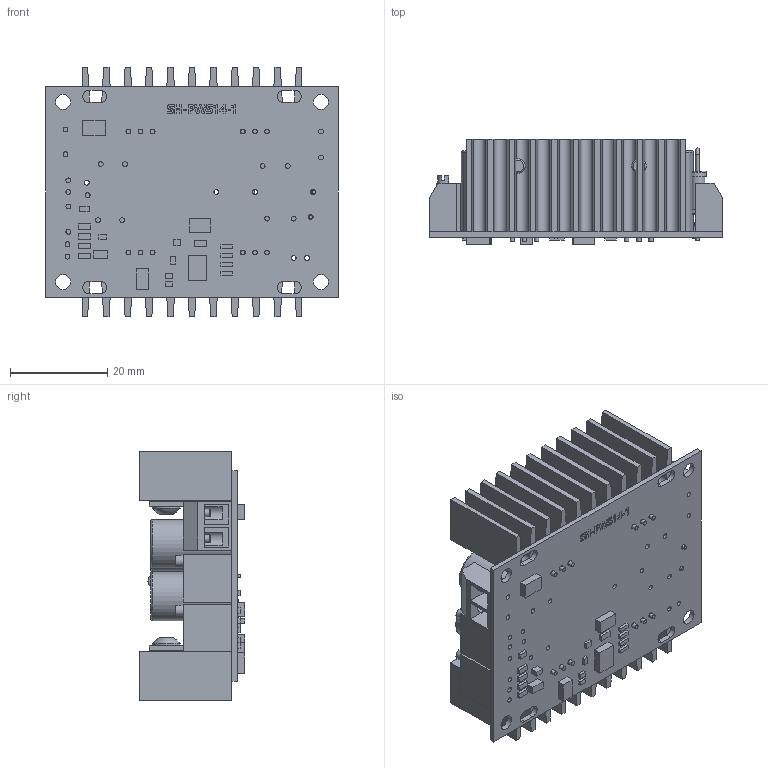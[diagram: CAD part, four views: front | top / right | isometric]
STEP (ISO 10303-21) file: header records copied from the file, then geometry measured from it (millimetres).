
FILE_DESCRIPTION(('FreeCAD Model'),'2;1');
FILE_NAME('Open CASCADE Shape Model','2023-05-06T18:44:57',('Author'),( ''),'Open CASCADE STEP processor 7.5','FreeCAD','Unknown');
FILE_SCHEMA(('AUTOMOTIVE_DESIGN { 1 0 10303 214 1 1 1 1 }'));
Length unit declared in the file: millimetre
Products named in the file (4): socket button head screw_iso_ISO 7380 - M3 x 6 - 6N; SH-PWS14-1; dc-dc sh-pws14-1; socket head cap screw_iso_ISO 4762 M1.6 x 4 - 4N
Assembly tree (9 placements, depth 2):
  dc-dc sh-pws14-1
    SH-PWS14-1
    socket head cap screw_iso_ISO 4762 M1.6 x 4 - 4N  x4
    socket button head screw_iso_ISO 7380 - M3 x 6 - 6N  x4
Bounding box: 60.2 x 21.6 x 51.2 mm (x, y, z)
Volume: 22518 mm3; surface area: 26914.6 mm2
Topology: 65 solids, 65 shells, 691 faces, 1653 edges, 1128 vertices
Faces by surface type: plane 516, cylinder 128, torus 25, cone 16, sphere 4, bspline 2
Full cylindrical faces by diameter (mm): 0.3 x1, 0.7 x4, 0.9 x12, 1 x38, 1.6 x4, 2.25 x2, 3 x15, 3.1 x4, 3.2 x4, 3.6 x2, 5.7 x4, 6.3 x4, 10 x4, 14 x1, 23 x1
Entity records: 25961 total; most frequent: CARTESIAN_POINT 7191, DIRECTION 2600, ORIENTED_EDGE 2438, EDGE_CURVE 1219, VERTEX_POINT 909, VECTOR 904, LINE 904, AXIS2_PLACEMENT_3D 848
